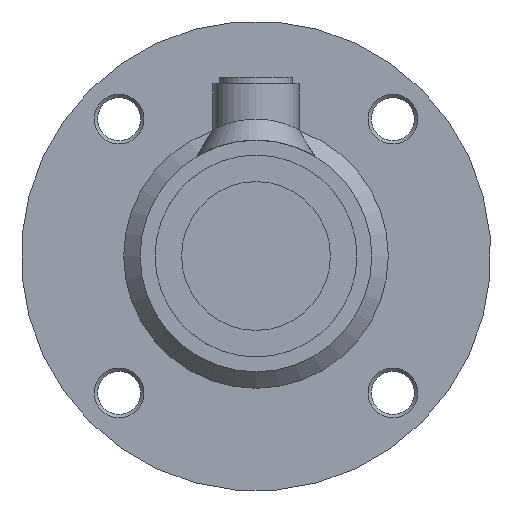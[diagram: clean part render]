
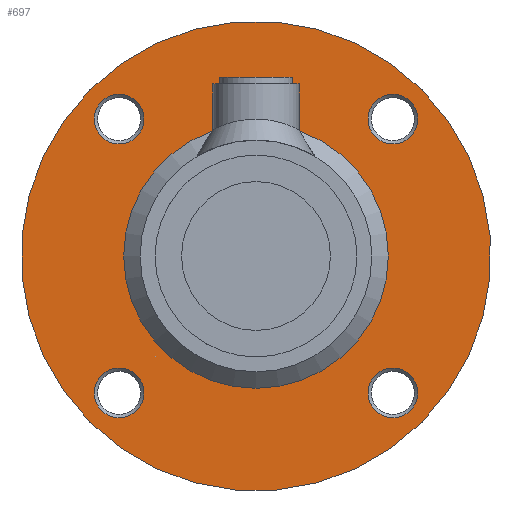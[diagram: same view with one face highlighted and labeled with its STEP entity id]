
A CAD part, left-side view. The second image highlights one B-rep face of the part: STEP entity #697.
In plain terms, the highlighted planar face has unit normal (-1, 0, 0).
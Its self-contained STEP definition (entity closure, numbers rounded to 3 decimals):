
#697 = ADVANCED_FACE( '', ( #1294, #1295, #1296, #1297, #1298, #1299 ), #1300, .T. );
#1294 = FACE_BOUND( '', #2577, .T. );
#1295 = FACE_BOUND( '', #2578, .T. );
#1296 = FACE_BOUND( '', #2579, .T. );
#1297 = FACE_BOUND( '', #2580, .T. );
#1298 = FACE_BOUND( '', #2581, .T. );
#1299 = FACE_OUTER_BOUND( '', #2582, .T. );
#1300 = PLANE( '', #2583 );
#2577 = EDGE_LOOP( '', ( #4784 ) );
#2578 = EDGE_LOOP( '', ( #4785 ) );
#2579 = EDGE_LOOP( '', ( #4786 ) );
#2580 = EDGE_LOOP( '', ( #4787 ) );
#2581 = EDGE_LOOP( '', ( #4788 ) );
#2582 = EDGE_LOOP( '', ( #4789 ) );
#2583 = AXIS2_PLACEMENT_3D( '', #4790, #4791, #4792 );
#4784 = ORIENTED_EDGE( '', *, *, #5926, .T. );
#4785 = ORIENTED_EDGE( '', *, *, #5927, .T. );
#4786 = ORIENTED_EDGE( '', *, *, #5928, .T. );
#4787 = ORIENTED_EDGE( '', *, *, #5929, .T. );
#4788 = ORIENTED_EDGE( '', *, *, #5930, .T. );
#4789 = ORIENTED_EDGE( '', *, *, #5931, .T. );
#4790 = CARTESIAN_POINT( '', ( 0., 0., 0. ) );
#4791 = DIRECTION( '', ( -1., 0., 0. ) );
#4792 = DIRECTION( '', ( 0., -1., 0. ) );
#5926 = EDGE_CURVE( '', #6529, #6529, #6530, .F. );
#5927 = EDGE_CURVE( '', #6531, #6531, #6532, .F. );
#5928 = EDGE_CURVE( '', #6533, #6533, #6534, .F. );
#5929 = EDGE_CURVE( '', #6535, #6535, #6536, .F. );
#5930 = EDGE_CURVE( '', #6537, #6537, #6538, .F. );
#5931 = EDGE_CURVE( '', #6539, #6539, #6540, .T. );
#6529 = VERTEX_POINT( '', #7692 );
#6530 = CIRCLE( '', #7693, 7.5 );
#6531 = VERTEX_POINT( '', #7694 );
#6532 = CIRCLE( '', #7695, 7.5 );
#6533 = VERTEX_POINT( '', #7696 );
#6534 = CIRCLE( '', #7697, 7.5 );
#6535 = VERTEX_POINT( '', #7698 );
#6536 = CIRCLE( '', #7699, 7.5 );
#6537 = VERTEX_POINT( '', #7700 );
#6538 = CIRCLE( '', #7701, 35. );
#6539 = VERTEX_POINT( '', #7702 );
#6540 = CIRCLE( '', #7703, 71. );
#7692 = CARTESIAN_POINT( '', ( 0., 58.5, -7.5 ) );
#7693 = AXIS2_PLACEMENT_3D( '', #9478, #9479, #9480 );
#7694 = CARTESIAN_POINT( '', ( 0., 7.5, 58.5 ) );
#7695 = AXIS2_PLACEMENT_3D( '', #9481, #9482, #9483 );
#7696 = CARTESIAN_POINT( '', ( 0., -58.5, 7.5 ) );
#7697 = AXIS2_PLACEMENT_3D( '', #9484, #9485, #9486 );
#7698 = CARTESIAN_POINT( '', ( 0., -7.5, -58.5 ) );
#7699 = AXIS2_PLACEMENT_3D( '', #9487, #9488, #9489 );
#7700 = CARTESIAN_POINT( '', ( 0., -35., 0. ) );
#7701 = AXIS2_PLACEMENT_3D( '', #9490, #9491, #9492 );
#7702 = CARTESIAN_POINT( '', ( 0., 71., 0. ) );
#7703 = AXIS2_PLACEMENT_3D( '', #9493, #9494, #9495 );
#9478 = CARTESIAN_POINT( '', ( 0., 58.5, 0. ) );
#9479 = DIRECTION( '', ( -1., 0., 0. ) );
#9480 = DIRECTION( '', ( 0., 0., -1. ) );
#9481 = CARTESIAN_POINT( '', ( 0., 0., 58.5 ) );
#9482 = DIRECTION( '', ( -1., 0., 0. ) );
#9483 = DIRECTION( '', ( 0., 1., 0. ) );
#9484 = CARTESIAN_POINT( '', ( 0., -58.5, 0. ) );
#9485 = DIRECTION( '', ( -1., 0., 0. ) );
#9486 = DIRECTION( '', ( 0., 0., 1. ) );
#9487 = CARTESIAN_POINT( '', ( 0., 0., -58.5 ) );
#9488 = DIRECTION( '', ( -1., 0., 0. ) );
#9489 = DIRECTION( '', ( 0., -1., 0. ) );
#9490 = CARTESIAN_POINT( '', ( 0., 0., 0. ) );
#9491 = DIRECTION( '', ( -1., 0., 0. ) );
#9492 = DIRECTION( '', ( 0., -1., 0. ) );
#9493 = CARTESIAN_POINT( '', ( 0., 0., 0. ) );
#9494 = DIRECTION( '', ( -1., 0., 0. ) );
#9495 = DIRECTION( '', ( 0., 1., 0. ) );
